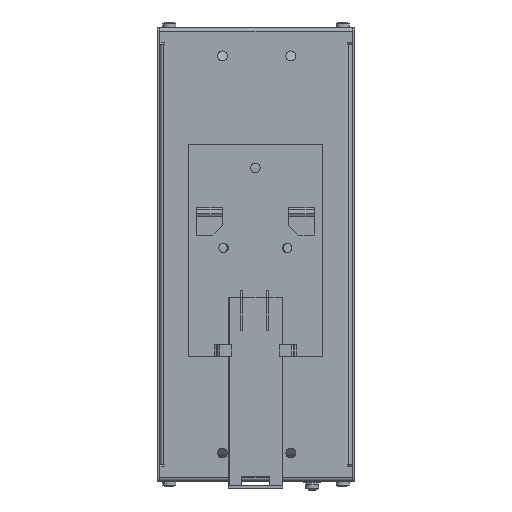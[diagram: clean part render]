
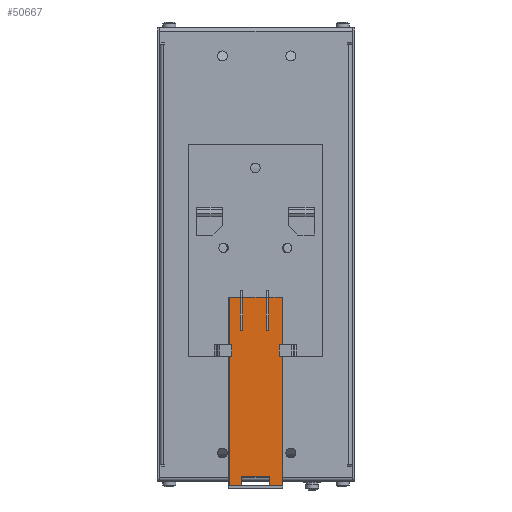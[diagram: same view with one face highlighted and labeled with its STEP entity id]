
A CAD part, front view. The second image highlights one B-rep face of the part: STEP entity #50667.
In plain terms, the highlighted planar face has unit normal (0, -1, 0).
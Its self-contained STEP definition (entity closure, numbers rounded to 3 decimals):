
#49963=CARTESIAN_POINT('',(-11.15,-2.5,-18.25));
#49964=VERTEX_POINT('',#49963);
#49982=CARTESIAN_POINT('',(-11.15,-2.5,-98.25));
#49983=VERTEX_POINT('',#49982);
#49991=CARTESIAN_POINT('',(-11.15,-2.5,-98.25));
#49992=DIRECTION('',(0.0,0.0,1.0));
#49993=VECTOR('',#49992,80.);
#49994=LINE('',#49991,#49993);
#49995=EDGE_CURVE('',#49983,#49964,#49994,.T.);
#50138=CARTESIAN_POINT('',(5.35,-2.5,-32.25));
#50139=VERTEX_POINT('',#50138);
#50146=CARTESIAN_POINT('',(5.35,-2.5,-18.25));
#50147=VERTEX_POINT('',#50146);
#50148=CARTESIAN_POINT('',(5.35,-2.5,-18.25));
#50149=DIRECTION('',(0.0,0.0,-1.0));
#50150=VECTOR('',#50149,14.);
#50151=LINE('',#50148,#50150);
#50152=EDGE_CURVE('',#50147,#50139,#50151,.T.);
#50200=CARTESIAN_POINT('',(4.35,-2.5,-18.25));
#50201=VERTEX_POINT('',#50200);
#50239=CARTESIAN_POINT('',(4.35,-2.5,-32.25));
#50240=VERTEX_POINT('',#50239);
#50241=CARTESIAN_POINT('',(4.35,-2.5,-32.25));
#50242=DIRECTION('',(0.0,0.0,1.0));
#50243=VECTOR('',#50242,14.);
#50244=LINE('',#50241,#50243);
#50245=EDGE_CURVE('',#50240,#50201,#50244,.T.);
#50275=CARTESIAN_POINT('',(5.35,-2.5,-32.25));
#50276=DIRECTION('',(-1.0,0.0,0.0));
#50277=VECTOR('',#50276,1.);
#50278=LINE('',#50275,#50277);
#50279=EDGE_CURVE('',#50139,#50240,#50278,.T.);
#50340=CARTESIAN_POINT('',(-5.65,-2.5,-32.25));
#50341=VERTEX_POINT('',#50340);
#50348=CARTESIAN_POINT('',(-5.65,-2.5,-18.25));
#50349=VERTEX_POINT('',#50348);
#50350=CARTESIAN_POINT('',(-5.65,-2.5,-18.25));
#50351=DIRECTION('',(0.0,0.0,-1.0));
#50352=VECTOR('',#50351,14.);
#50353=LINE('',#50350,#50352);
#50354=EDGE_CURVE('',#50349,#50341,#50353,.T.);
#50402=CARTESIAN_POINT('',(-6.65,-2.5,-18.25));
#50403=VERTEX_POINT('',#50402);
#50441=CARTESIAN_POINT('',(-6.65,-2.5,-32.25));
#50442=VERTEX_POINT('',#50441);
#50443=CARTESIAN_POINT('',(-6.65,-2.5,-32.25));
#50444=DIRECTION('',(0.0,0.0,1.0));
#50445=VECTOR('',#50444,14.);
#50446=LINE('',#50443,#50445);
#50447=EDGE_CURVE('',#50442,#50403,#50446,.T.);
#50477=CARTESIAN_POINT('',(-5.65,-2.5,-32.25));
#50478=DIRECTION('',(-1.0,0.0,0.0));
#50479=VECTOR('',#50478,1.);
#50480=LINE('',#50477,#50479);
#50481=EDGE_CURVE('',#50341,#50442,#50480,.T.);
#50503=CARTESIAN_POINT('',(5.8,-2.5,-94.25));
#50504=VERTEX_POINT('',#50503);
#50511=CARTESIAN_POINT('',(-6.2,-2.5,-94.25));
#50512=VERTEX_POINT('',#50511);
#50513=CARTESIAN_POINT('',(-6.2,-2.5,-94.25));
#50514=DIRECTION('',(1.0,0.0,0.0));
#50515=VECTOR('',#50514,12.);
#50516=LINE('',#50513,#50515);
#50517=EDGE_CURVE('',#50512,#50504,#50516,.T.);
#50540=CARTESIAN_POINT('',(-6.2,-2.5,-98.25));
#50541=VERTEX_POINT('',#50540);
#50542=CARTESIAN_POINT('',(-6.2,-2.5,-98.25));
#50543=DIRECTION('',(0.0,0.0,1.0));
#50544=VECTOR('',#50543,4.);
#50545=LINE('',#50542,#50544);
#50546=EDGE_CURVE('',#50541,#50512,#50545,.T.);
#50570=CARTESIAN_POINT('',(5.8,-2.5,-98.25));
#50571=VERTEX_POINT('',#50570);
#50578=CARTESIAN_POINT('',(5.8,-2.5,-94.25));
#50579=DIRECTION('',(0.0,0.0,-1.0));
#50580=VECTOR('',#50579,4.);
#50581=LINE('',#50578,#50580);
#50582=EDGE_CURVE('',#50504,#50571,#50581,.T.);
#50610=CARTESIAN_POINT('',(-0.2,-2.5,-58.75));
#50611=DIRECTION('',(0.0,-1.0,0.0));
#50612=DIRECTION('',(1.0,0.0,0.0));
#50613=AXIS2_PLACEMENT_3D('',#50610,#50611,#50612);
#50614=PLANE('',#50613);
#50615=ORIENTED_EDGE('',*,*,#50245,.T.);
#50616=CARTESIAN_POINT('',(4.35,-2.5,-18.25));
#50617=DIRECTION('',(-1.0,0.0,0.0));
#50618=VECTOR('',#50617,10.);
#50619=LINE('',#50616,#50618);
#50620=EDGE_CURVE('',#50201,#50349,#50619,.T.);
#50621=ORIENTED_EDGE('',*,*,#50620,.T.);
#50622=ORIENTED_EDGE('',*,*,#50354,.T.);
#50623=ORIENTED_EDGE('',*,*,#50481,.T.);
#50624=ORIENTED_EDGE('',*,*,#50447,.T.);
#50625=CARTESIAN_POINT('',(-6.65,-2.5,-18.25));
#50626=DIRECTION('',(-1.0,0.0,0.0));
#50627=VECTOR('',#50626,4.5);
#50628=LINE('',#50625,#50627);
#50629=EDGE_CURVE('',#50403,#49964,#50628,.T.);
#50630=ORIENTED_EDGE('',*,*,#50629,.T.);
#50631=ORIENTED_EDGE('',*,*,#49995,.F.);
#50632=CARTESIAN_POINT('',(-11.15,-2.5,-98.25));
#50633=DIRECTION('',(1.0,0.0,0.0));
#50634=VECTOR('',#50633,4.95);
#50635=LINE('',#50632,#50634);
#50636=EDGE_CURVE('',#49983,#50541,#50635,.T.);
#50637=ORIENTED_EDGE('',*,*,#50636,.T.);
#50638=ORIENTED_EDGE('',*,*,#50546,.T.);
#50639=ORIENTED_EDGE('',*,*,#50517,.T.);
#50640=ORIENTED_EDGE('',*,*,#50582,.T.);
#50641=CARTESIAN_POINT('',(11.25,-2.5,-98.25));
#50642=VERTEX_POINT('',#50641);
#50643=CARTESIAN_POINT('',(5.8,-2.5,-98.25));
#50644=DIRECTION('',(1.0,0.0,0.0));
#50645=VECTOR('',#50644,5.45);
#50646=LINE('',#50643,#50645);
#50647=EDGE_CURVE('',#50571,#50642,#50646,.T.);
#50648=ORIENTED_EDGE('',*,*,#50647,.T.);
#50649=CARTESIAN_POINT('',(11.25,-2.5,-18.25));
#50650=VERTEX_POINT('',#50649);
#50651=CARTESIAN_POINT('',(11.25,-2.5,-98.25));
#50652=DIRECTION('',(0.0,0.0,1.0));
#50653=VECTOR('',#50652,80.0);
#50654=LINE('',#50651,#50653);
#50655=EDGE_CURVE('',#50642,#50650,#50654,.T.);
#50656=ORIENTED_EDGE('',*,*,#50655,.T.);
#50657=CARTESIAN_POINT('',(11.25,-2.5,-18.25));
#50658=DIRECTION('',(-1.0,0.0,0.0));
#50659=VECTOR('',#50658,5.9);
#50660=LINE('',#50657,#50659);
#50661=EDGE_CURVE('',#50650,#50147,#50660,.T.);
#50662=ORIENTED_EDGE('',*,*,#50661,.T.);
#50663=ORIENTED_EDGE('',*,*,#50152,.T.);
#50664=ORIENTED_EDGE('',*,*,#50279,.T.);
#50665=EDGE_LOOP('',(#50615,#50621,#50622,#50623,#50624,#50630,#50631,#50637,#50638,#50639,#50640,#50648,#50656,#50662,#50663,#50664));
#50666=FACE_OUTER_BOUND('',#50665,.T.);
#50667=ADVANCED_FACE('',(#50666),#50614,.T.);
